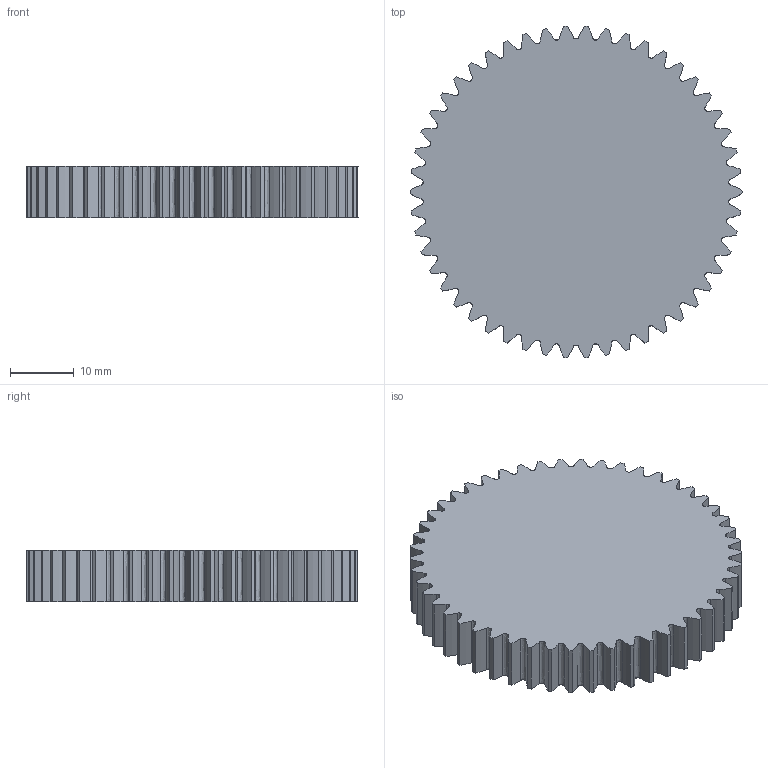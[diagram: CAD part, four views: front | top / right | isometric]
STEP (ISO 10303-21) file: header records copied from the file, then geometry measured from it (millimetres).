
FILE_DESCRIPTION(/* description */ (''),/* implementation_level */ '2;1');
FILE_NAME(/* name */ 'C:/Users/Brandon/Desktop/gears 25deg mod1 fillet.5/50t.step',/* time_stamp */ '2018-01-21T15:57:18-05:00',/* author */ (''),/* organization */ (''),/* preprocessor_version */ 'ST-DEVELOPER v16.13',/* originating_system */ 'Autodesk Translation Framework v6.5.0.72',/* authorisation */ '');
FILE_SCHEMA (('AUTOMOTIVE_DESIGN { 1 0 10303 214 3 1 1 }'));
Length unit declared in the file: millimetre
Products named in the file (3): (Unsaved); Spur Gear (45 teeth); Spur Gear (50 teeth)
Assembly tree (2 placements, depth 2):
  (Unsaved)
    Spur Gear (45 teeth)
    Spur Gear (50 teeth)
Bounding box: 52 x 51.93 x 8 mm (x, y, z)
Volume: 15708.7 mm3; surface area: 6154.2 mm2
Topology: 1 solids, 1 shells, 202 faces, 600 edges, 400 vertices
Faces by surface type: bspline 150, cylinder 50, plane 2
Entity records: 31208 total; most frequent: CARTESIAN_POINT 27157, ORIENTED_EDGE 1200, EDGE_CURVE 600, DIRECTION 414, VERTEX_POINT 400, FACE_OUTER_BOUND 202, EDGE_LOOP 202, ADVANCED_FACE 202
